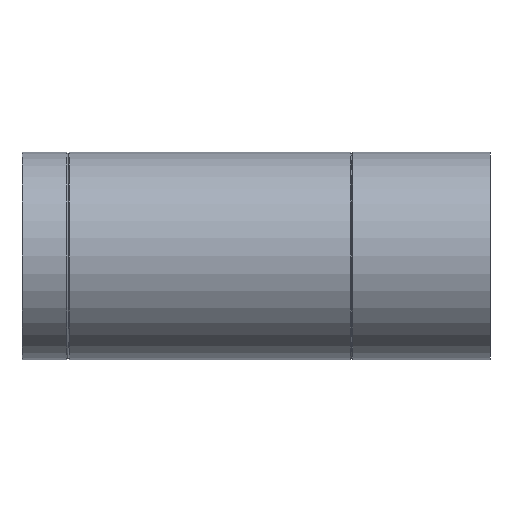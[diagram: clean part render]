
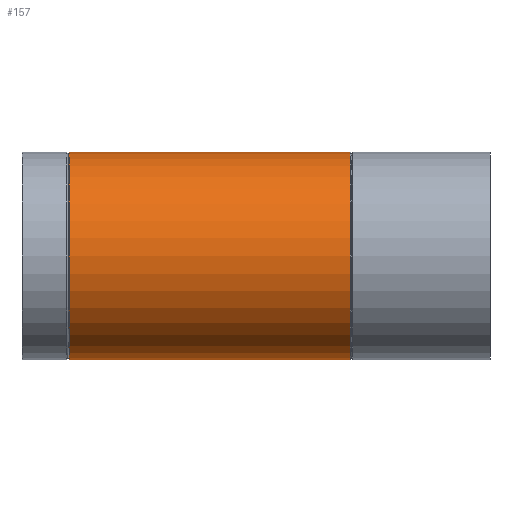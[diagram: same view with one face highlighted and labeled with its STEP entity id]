
A CAD part, left-side view. The second image highlights one B-rep face of the part: STEP entity #157.
In plain terms, the highlighted cylindrical face has radius 45 mm (diameter 90 mm), a full revolution.
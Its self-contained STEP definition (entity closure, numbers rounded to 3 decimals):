
#16=B_SPLINE_CURVE_WITH_KNOTS($,3,(#267,#268,#269,#270,#271,#272,#273,#274,
#275,#276,#277,#278,#279,#280,#281,#282,#283,#284,#285,#286,#287,#288,#289,
#290,#291,#292,#293,#294,#295,#296,#297,#298,#299,#300,#301,#302,#303,#304,
#305,#306,#307,#308,#309,#310,#311,#312,#313,#314,#315,#316,#317,#318,#319,
#320,#321,#322,#323,#324,#325,#326,#327,#328,#329,#330,#331,#332),
 .UNSPECIFIED.,.T.,.F.,(4,2,2,2,2,2,2,2,2,2,2,2,2,2,2,2,2,2,2,2,2,2,2,2,
2,2,2,2,2,2,2,2,4),(0.,0.55,1.101,1.651,
2.202,2.747,3.292,3.837,4.382,
4.926,5.47,6.014,6.557,7.109,
7.661,8.213,8.765,9.309,9.853,
10.397,10.941,11.484,12.028,12.571,
13.114,13.658,14.201,14.744,15.288,
15.832,16.376,16.92,17.464),
 .UNSPECIFIED.);
#19=CYLINDRICAL_SURFACE($,#180,45.);
#29=FACE_BOUND($,#63,.T.);
#30=FACE_BOUND($,#64,.T.);
#48=FACE_OUTER_BOUND($,#62,.T.);
#62=EDGE_LOOP($,(#130));
#63=EDGE_LOOP($,(#131));
#64=EDGE_LOOP($,(#132));
#81=CIRCLE($,#170,45.);
#86=CIRCLE($,#179,45.);
#93=VERTEX_POINT($,#249);
#98=VERTEX_POINT($,#263);
#99=VERTEX_POINT($,#266);
#107=EDGE_CURVE($,#93,#93,#81,.T.);
#112=EDGE_CURVE($,#98,#98,#86,.T.);
#113=EDGE_CURVE($,#99,#99,#16,.T.);
#130=ORIENTED_EDGE($,*,*,#107,.T.);
#131=ORIENTED_EDGE($,*,*,#113,.T.);
#132=ORIENTED_EDGE($,*,*,#112,.T.);
#157=ADVANCED_FACE($,(#48,#29,#30),#19,.T.);
#170=AXIS2_PLACEMENT_3D($,#250,#199,#200);
#179=AXIS2_PLACEMENT_3D($,#264,#217,#218);
#180=AXIS2_PLACEMENT_3D($,#265,#219,#220);
#199=DIRECTION('center_axis',(0.,-1.,0.));
#200=DIRECTION('ref_axis',(1.,0.,0.));
#217=DIRECTION('center_axis',(0.,1.,0.));
#218=DIRECTION('ref_axis',(1.,0.,0.));
#219=DIRECTION('center_axis',(0.,1.,0.));
#220=DIRECTION('ref_axis',(1.,0.,0.));
#249=CARTESIAN_POINT('',(45.,182.48,0.));
#250=CARTESIAN_POINT('Origin',(0.,182.48,0.));
#263=CARTESIAN_POINT('',(45.,60.52,0.));
#264=CARTESIAN_POINT('Origin',(0.,60.52,0.));
#265=CARTESIAN_POINT('Origin',(0.,0.,0.));
#266=CARTESIAN_POINT('',(35.228,120.922,28.));
#267=CARTESIAN_POINT('Ctrl Pts',(35.228,120.922,28.));
#268=CARTESIAN_POINT('Ctrl Pts',(35.228,122.757,28.));
#269=CARTESIAN_POINT('Ctrl Pts',(35.375,124.628,27.817));
#270=CARTESIAN_POINT('Ctrl Pts',(35.944,128.308,27.079));
#271=CARTESIAN_POINT('Ctrl Pts',(36.363,130.118,26.524));
#272=CARTESIAN_POINT('Ctrl Pts',(37.372,133.565,25.083));
#273=CARTESIAN_POINT('Ctrl Pts',(37.96,135.206,24.196));
#274=CARTESIAN_POINT('Ctrl Pts',(39.181,138.238,22.164));
#275=CARTESIAN_POINT('Ctrl Pts',(39.813,139.629,21.018));
#276=CARTESIAN_POINT('Ctrl Pts',(41.002,142.087,18.592));
#277=CARTESIAN_POINT('Ctrl Pts',(41.604,143.247,17.224));
#278=CARTESIAN_POINT('Ctrl Pts',(42.723,145.313,14.224));
#279=CARTESIAN_POINT('Ctrl Pts',(43.239,146.219,12.592));
#280=CARTESIAN_POINT('Ctrl Pts',(44.094,147.69,9.155));
#281=CARTESIAN_POINT('Ctrl Pts',(44.434,148.256,7.348));
#282=CARTESIAN_POINT('Ctrl Pts',(44.887,149.005,3.679));
#283=CARTESIAN_POINT('Ctrl Pts',(45.,149.188,1.817));
#284=CARTESIAN_POINT('Ctrl Pts',(45.,149.188,-1.813));
#285=CARTESIAN_POINT('Ctrl Pts',(44.888,149.006,-3.67));
#286=CARTESIAN_POINT('Ctrl Pts',(44.437,148.261,-7.331));
#287=CARTESIAN_POINT('Ctrl Pts',(44.099,147.697,-9.135));
#288=CARTESIAN_POINT('Ctrl Pts',(43.246,146.233,-12.565));
#289=CARTESIAN_POINT('Ctrl Pts',(42.733,145.33,-14.194));
#290=CARTESIAN_POINT('Ctrl Pts',(41.618,143.273,-17.191));
#291=CARTESIAN_POINT('Ctrl Pts',(41.017,142.118,-18.557));
#292=CARTESIAN_POINT('Ctrl Pts',(39.829,139.664,-20.987));
#293=CARTESIAN_POINT('Ctrl Pts',(39.196,138.272,-22.138));
#294=CARTESIAN_POINT('Ctrl Pts',(37.971,135.235,-24.179));
#295=CARTESIAN_POINT('Ctrl Pts',(37.38,133.591,-25.07));
#296=CARTESIAN_POINT('Ctrl Pts',(36.368,130.138,-26.517));
#297=CARTESIAN_POINT('Ctrl Pts',(35.947,128.325,-27.075));
#298=CARTESIAN_POINT('Ctrl Pts',(35.376,124.637,-27.816));
#299=CARTESIAN_POINT('Ctrl Pts',(35.228,122.762,-28.));
#300=CARTESIAN_POINT('Ctrl Pts',(35.228,119.109,-28.));
#301=CARTESIAN_POINT('Ctrl Pts',(35.372,117.259,-27.821));
#302=CARTESIAN_POINT('Ctrl Pts',(35.934,113.623,-27.091));
#303=CARTESIAN_POINT('Ctrl Pts',(36.351,111.836,-26.541));
#304=CARTESIAN_POINT('Ctrl Pts',(37.355,108.44,-25.107));
#305=CARTESIAN_POINT('Ctrl Pts',(37.943,106.827,-24.222));
#306=CARTESIAN_POINT('Ctrl Pts',(39.164,103.852,-22.194));
#307=CARTESIAN_POINT('Ctrl Pts',(39.797,102.491,-21.049));
#308=CARTESIAN_POINT('Ctrl Pts',(40.99,100.082,-18.618));
#309=CARTESIAN_POINT('Ctrl Pts',(41.597,98.945,-17.242));
#310=CARTESIAN_POINT('Ctrl Pts',(42.722,96.926,-14.228));
#311=CARTESIAN_POINT('Ctrl Pts',(43.239,96.044,-12.59));
#312=CARTESIAN_POINT('Ctrl Pts',(44.097,94.616,-9.146));
#313=CARTESIAN_POINT('Ctrl Pts',(44.436,94.068,-7.337));
#314=CARTESIAN_POINT('Ctrl Pts',(44.888,93.344,-3.669));
#315=CARTESIAN_POINT('Ctrl Pts',(45.,93.169,-1.811));
#316=CARTESIAN_POINT('Ctrl Pts',(45.,93.169,1.811));
#317=CARTESIAN_POINT('Ctrl Pts',(44.888,93.344,3.669));
#318=CARTESIAN_POINT('Ctrl Pts',(44.436,94.068,7.337));
#319=CARTESIAN_POINT('Ctrl Pts',(44.097,94.616,9.146));
#320=CARTESIAN_POINT('Ctrl Pts',(43.239,96.044,12.59));
#321=CARTESIAN_POINT('Ctrl Pts',(42.722,96.926,14.228));
#322=CARTESIAN_POINT('Ctrl Pts',(41.597,98.945,17.242));
#323=CARTESIAN_POINT('Ctrl Pts',(40.99,100.082,18.618));
#324=CARTESIAN_POINT('Ctrl Pts',(39.797,102.491,21.049));
#325=CARTESIAN_POINT('Ctrl Pts',(39.164,103.852,22.194));
#326=CARTESIAN_POINT('Ctrl Pts',(37.943,106.827,24.222));
#327=CARTESIAN_POINT('Ctrl Pts',(37.355,108.44,25.107));
#328=CARTESIAN_POINT('Ctrl Pts',(36.351,111.836,26.541));
#329=CARTESIAN_POINT('Ctrl Pts',(35.934,113.623,27.091));
#330=CARTESIAN_POINT('Ctrl Pts',(35.372,117.259,27.821));
#331=CARTESIAN_POINT('Ctrl Pts',(35.228,119.109,28.));
#332=CARTESIAN_POINT('Ctrl Pts',(35.228,120.922,28.));
